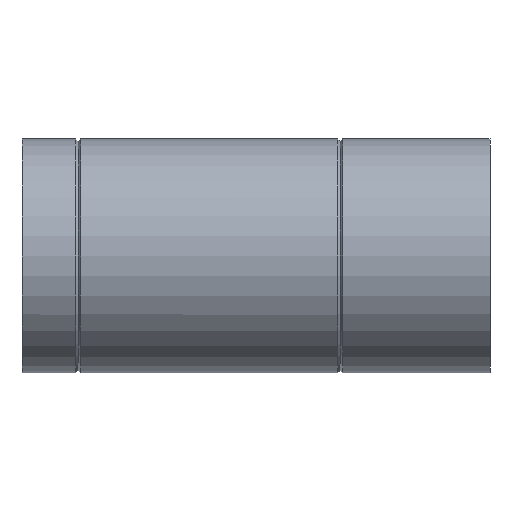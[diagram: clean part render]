
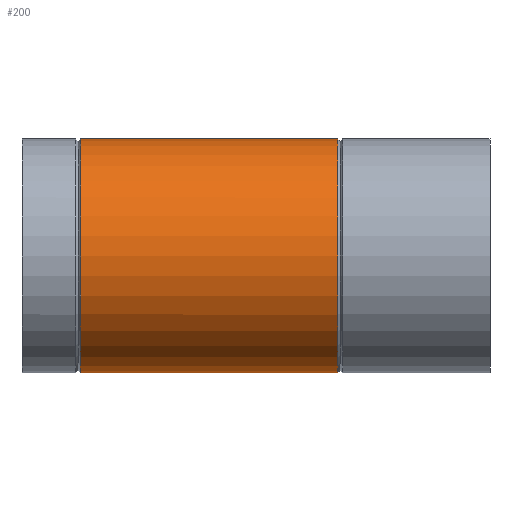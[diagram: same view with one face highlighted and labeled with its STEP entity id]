
A CAD part, left-side view. The second image highlights one B-rep face of the part: STEP entity #200.
In plain terms, the highlighted cylindrical face has radius 62.5 mm (diameter 125 mm), a full revolution.
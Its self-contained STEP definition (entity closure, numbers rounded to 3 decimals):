
#15=B_SPLINE_CURVE_WITH_KNOTS($,3,(#325,#326,#327,#328,#329,#330,#331,#332,
#333,#334,#335,#336,#337,#338,#339,#340,#341,#342,#343,#344,#345,#346,#347,
#348,#349,#350,#351,#352,#353,#354,#355,#356,#357,#358,#359,#360,#361,#362,
#363,#364,#365,#366,#367,#368,#369,#370,#371,#372,#373,#374,#375,#376,#377,
#378,#379,#380,#381,#382,#383,#384,#385,#386,#387,#388,#389,#390),
 .UNSPECIFIED.,.T.,.F.,(4,2,2,2,2,2,2,2,2,2,2,2,2,2,2,2,2,2,2,2,2,2,2,2,
2,2,2,2,2,2,2,2,4),(0.,1.193,2.386,3.579,
4.772,5.88,6.988,8.096,9.204,
10.312,11.42,12.528,13.636,14.829,
16.022,17.215,18.408,19.574,20.74,
21.906,23.072,24.181,25.289,26.397,
27.506,28.614,29.722,30.83,31.939,
33.105,34.271,35.437,36.603),
 .UNSPECIFIED.);
#17=CYLINDRICAL_SURFACE($,#222,62.5);
#26=FACE_BOUND($,#63,.T.);
#27=FACE_BOUND($,#64,.T.);
#48=FACE_OUTER_BOUND($,#62,.T.);
#62=EDGE_LOOP($,(#145));
#63=EDGE_LOOP($,(#146));
#64=EDGE_LOOP($,(#147));
#94=CIRCLE($,#221,62.5);
#95=CIRCLE($,#223,62.5);
#109=VERTEX_POINT($,#319);
#110=VERTEX_POINT($,#322);
#111=VERTEX_POINT($,#324);
#126=EDGE_CURVE($,#109,#109,#94,.T.);
#127=EDGE_CURVE($,#110,#110,#95,.T.);
#128=EDGE_CURVE($,#111,#111,#15,.T.);
#145=ORIENTED_EDGE($,*,*,#127,.T.);
#146=ORIENTED_EDGE($,*,*,#128,.T.);
#147=ORIENTED_EDGE($,*,*,#126,.T.);
#200=ADVANCED_FACE($,(#48,#26,#27),#17,.T.);
#221=AXIS2_PLACEMENT_3D($,#320,#258,#259);
#222=AXIS2_PLACEMENT_3D($,#321,#260,#261);
#223=AXIS2_PLACEMENT_3D($,#323,#262,#263);
#258=DIRECTION('center_axis',(0.,-1.,0.));
#259=DIRECTION('ref_axis',(1.,0.,0.));
#260=DIRECTION('center_axis',(0.,1.,0.));
#261=DIRECTION('ref_axis',(1.,0.,0.));
#262=DIRECTION('center_axis',(0.,1.,0.));
#263=DIRECTION('ref_axis',(1.,0.,0.));
#319=CARTESIAN_POINT('',(62.5,218.75,0.));
#320=CARTESIAN_POINT('Origin',(0.,218.75,0.));
#321=CARTESIAN_POINT('Origin',(0.,0.,0.));
#322=CARTESIAN_POINT('',(-62.5,81.25,0.));
#323=CARTESIAN_POINT('Origin',(0.,81.25,0.));
#324=CARTESIAN_POINT('',(29.686,150.777,55.));
#325=CARTESIAN_POINT('Ctrl Pts',(29.686,150.777,55.));
#326=CARTESIAN_POINT('Ctrl Pts',(29.686,154.754,55.));
#327=CARTESIAN_POINT('Ctrl Pts',(30.494,158.542,54.577));
#328=CARTESIAN_POINT('Ctrl Pts',(33.062,165.808,53.06));
#329=CARTESIAN_POINT('Ctrl Pts',(34.81,169.289,51.964));
#330=CARTESIAN_POINT('Ctrl Pts',(38.676,175.954,49.154));
#331=CARTESIAN_POINT('Ctrl Pts',(40.794,179.131,47.439));
#332=CARTESIAN_POINT('Ctrl Pts',(44.997,185.066,43.472));
#333=CARTESIAN_POINT('Ctrl Pts',(47.084,187.822,41.219));
#334=CARTESIAN_POINT('Ctrl Pts',(50.807,192.6,36.514));
#335=CARTESIAN_POINT('Ctrl Pts',(52.596,194.823,33.924));
#336=CARTESIAN_POINT('Ctrl Pts',(55.884,198.839,28.182));
#337=CARTESIAN_POINT('Ctrl Pts',(57.382,200.631,25.028));
#338=CARTESIAN_POINT('Ctrl Pts',(59.863,203.574,18.317));
#339=CARTESIAN_POINT('Ctrl Pts',(60.848,204.728,14.751));
#340=CARTESIAN_POINT('Ctrl Pts',(62.167,206.269,7.44));
#341=CARTESIAN_POINT('Ctrl Pts',(62.5,206.655,3.693));
#342=CARTESIAN_POINT('Ctrl Pts',(62.5,206.655,-3.693));
#343=CARTESIAN_POINT('Ctrl Pts',(62.167,206.269,-7.44));
#344=CARTESIAN_POINT('Ctrl Pts',(60.848,204.728,-14.751));
#345=CARTESIAN_POINT('Ctrl Pts',(59.863,203.574,-18.317));
#346=CARTESIAN_POINT('Ctrl Pts',(57.382,200.631,-25.028));
#347=CARTESIAN_POINT('Ctrl Pts',(55.884,198.839,-28.182));
#348=CARTESIAN_POINT('Ctrl Pts',(52.596,194.823,-33.924));
#349=CARTESIAN_POINT('Ctrl Pts',(50.807,192.6,-36.514));
#350=CARTESIAN_POINT('Ctrl Pts',(47.084,187.822,-41.219));
#351=CARTESIAN_POINT('Ctrl Pts',(44.997,185.066,-43.472));
#352=CARTESIAN_POINT('Ctrl Pts',(40.794,179.131,-47.439));
#353=CARTESIAN_POINT('Ctrl Pts',(38.676,175.954,-49.154));
#354=CARTESIAN_POINT('Ctrl Pts',(34.81,169.289,-51.964));
#355=CARTESIAN_POINT('Ctrl Pts',(33.062,165.808,-53.06));
#356=CARTESIAN_POINT('Ctrl Pts',(30.494,158.542,-54.577));
#357=CARTESIAN_POINT('Ctrl Pts',(29.686,154.754,-55.));
#358=CARTESIAN_POINT('Ctrl Pts',(29.686,146.891,-55.));
#359=CARTESIAN_POINT('Ctrl Pts',(30.463,143.184,-54.593));
#360=CARTESIAN_POINT('Ctrl Pts',(32.983,136.1,-53.108));
#361=CARTESIAN_POINT('Ctrl Pts',(34.712,132.718,-52.028));
#362=CARTESIAN_POINT('Ctrl Pts',(38.548,126.268,-49.254));
#363=CARTESIAN_POINT('Ctrl Pts',(40.655,123.205,-47.557));
#364=CARTESIAN_POINT('Ctrl Pts',(44.839,117.497,-43.634));
#365=CARTESIAN_POINT('Ctrl Pts',(46.918,114.853,-41.405));
#366=CARTESIAN_POINT('Ctrl Pts',(50.667,110.229,-36.711));
#367=CARTESIAN_POINT('Ctrl Pts',(52.486,108.061,-34.097));
#368=CARTESIAN_POINT('Ctrl Pts',(55.823,104.157,-28.305));
#369=CARTESIAN_POINT('Ctrl Pts',(57.34,102.422,-25.126));
#370=CARTESIAN_POINT('Ctrl Pts',(59.848,99.578,-18.371));
#371=CARTESIAN_POINT('Ctrl Pts',(60.84,98.468,-14.787));
#372=CARTESIAN_POINT('Ctrl Pts',(62.166,96.987,-7.449));
#373=CARTESIAN_POINT('Ctrl Pts',(62.5,96.618,-3.694));
#374=CARTESIAN_POINT('Ctrl Pts',(62.5,96.618,3.694));
#375=CARTESIAN_POINT('Ctrl Pts',(62.166,96.987,7.449));
#376=CARTESIAN_POINT('Ctrl Pts',(60.84,98.468,14.787));
#377=CARTESIAN_POINT('Ctrl Pts',(59.848,99.578,18.371));
#378=CARTESIAN_POINT('Ctrl Pts',(57.34,102.422,25.126));
#379=CARTESIAN_POINT('Ctrl Pts',(55.823,104.157,28.305));
#380=CARTESIAN_POINT('Ctrl Pts',(52.486,108.061,34.097));
#381=CARTESIAN_POINT('Ctrl Pts',(50.667,110.229,36.711));
#382=CARTESIAN_POINT('Ctrl Pts',(46.918,114.853,41.405));
#383=CARTESIAN_POINT('Ctrl Pts',(44.839,117.497,43.634));
#384=CARTESIAN_POINT('Ctrl Pts',(40.655,123.205,47.557));
#385=CARTESIAN_POINT('Ctrl Pts',(38.548,126.268,49.254));
#386=CARTESIAN_POINT('Ctrl Pts',(34.712,132.718,52.028));
#387=CARTESIAN_POINT('Ctrl Pts',(32.983,136.1,53.108));
#388=CARTESIAN_POINT('Ctrl Pts',(30.463,143.184,54.593));
#389=CARTESIAN_POINT('Ctrl Pts',(29.686,146.891,55.));
#390=CARTESIAN_POINT('Ctrl Pts',(29.686,150.777,55.));
